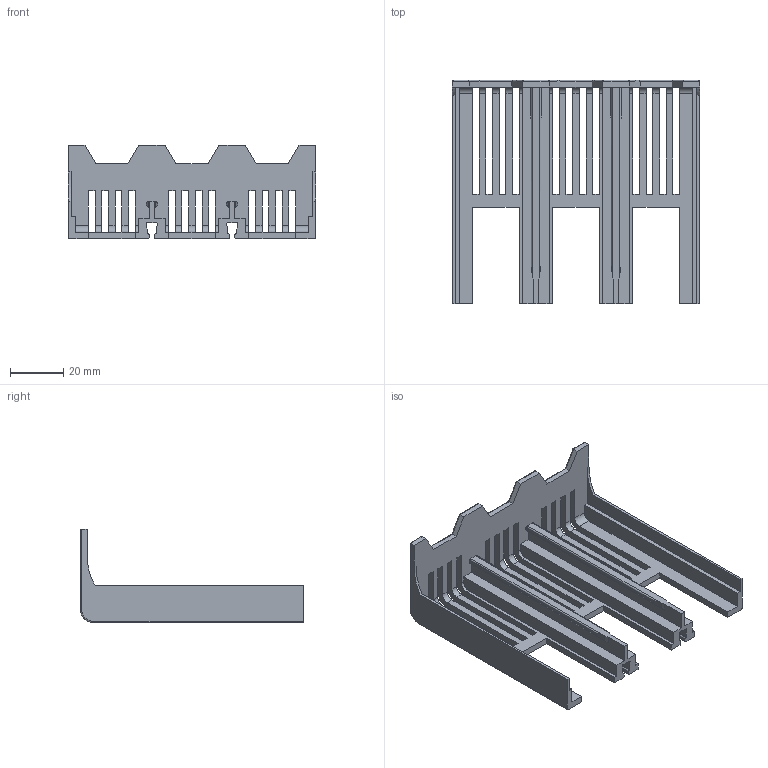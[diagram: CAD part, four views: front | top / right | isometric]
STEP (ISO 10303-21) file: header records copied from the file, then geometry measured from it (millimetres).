
FILE_DESCRIPTION((''),'2;1');
FILE_NAME('1253P','2023-10-24T08:55:56',('yangyuqing'),(''),'CREO PARAMETRIC BY PTC INC, 2020354','CREO PARAMETRIC BY PTC INC, 2020354','');
FILE_SCHEMA(('CONFIG_CONTROL_DESIGN'));
Length unit declared in the file: millimetre
Products named in the file (1): 1253P
Bounding box: 92.5 x 83.5 x 35 mm (x, y, z)
Volume: 27328.4 mm3; surface area: 28480.8 mm2
Topology: 1 solids, 1 shells, 253 faces, 783 edges, 508 vertices
Faces by surface type: plane 152, cylinder 83, torus 10, sphere 4, bspline 4
Entity records: 9001 total; most frequent: CARTESIAN_POINT 1954, ORIENTED_EDGE 1566, DIRECTION 1371, EDGE_CURVE 783, VECTOR 593, LINE 593, VERTEX_POINT 508, AXIS2_PLACEMENT_3D 389
